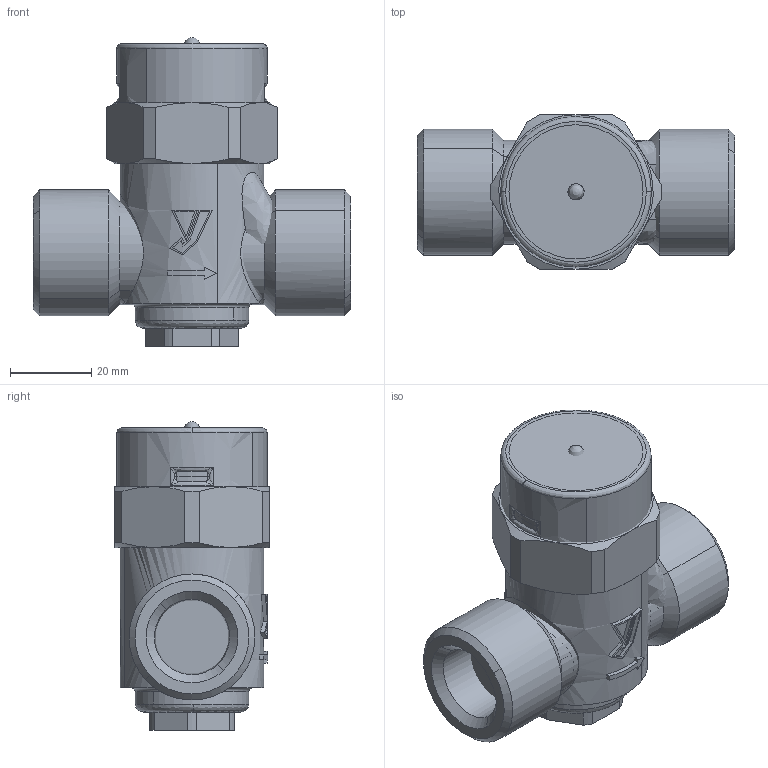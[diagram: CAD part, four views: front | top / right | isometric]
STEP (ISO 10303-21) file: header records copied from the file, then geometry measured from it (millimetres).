
FILE_DESCRIPTION((''),'2;1');
FILE_NAME('','2018-10-29T18:15:03',(''),(''),'','CADfix','');
FILE_SCHEMA(('AUTOMOTIVE_DESIGN { 1 0 10303 214 1 1 1 1 }'));
Length unit declared in the file: millimetre
Products named in the file (9): TSD-42 Rc部_mr; TSD-42F 曐壏僇僶乕丂3D; TSD-42F 銘板　3D; TSD-42F 銘板鋲; TSD-42F strainer cap; TSD-42F 僉儍僢僾A 3D; TSD-42F 15A  本体　3D; TSD-42 Rc部; TSD-42 15A_38
Assembly tree (8 placements, depth 2):
  TSD-42 15A_38
    TSD-42 Rc部_mr
    TSD-42F 曐壏僇僶乕丂3D
    TSD-42F 銘板　3D
    TSD-42F 銘板鋲
    TSD-42F strainer cap
    TSD-42F 僉儍僢僾A 3D
    TSD-42F 15A  本体　3D
    TSD-42 Rc部
Bounding box: 78 x 38 x 76 mm (x, y, z)
Volume: 110754.8 mm3; surface area: 36671.1 mm2
Topology: 8 solids, 8 shells, 281 faces, 940 edges, 680 vertices
Faces by surface type: bspline 281
Entity records: 16817 total; most frequent: CARTESIAN_POINT 11317, ORIENTED_EDGE 1842, EDGE_CURVE 921, VERTEX_POINT 680, B_SPLINE_CURVE_WITH_KNOTS 619, EDGE_LOOP 309, FACE_OUTER_BOUND 281, ADVANCED_FACE 281
